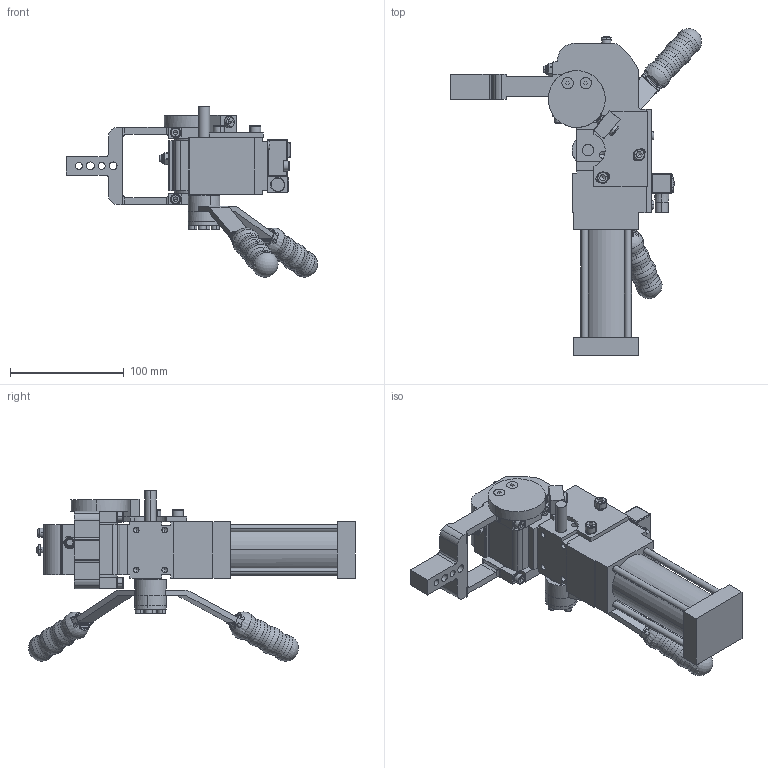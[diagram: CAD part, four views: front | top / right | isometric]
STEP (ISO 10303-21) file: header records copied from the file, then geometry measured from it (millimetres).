
FILE_DESCRIPTION((''),'2;1');
FILE_NAME('S:\Matthew\Step Files (Power Clamps) v.3.14\XSM Power Clamps\XSM140 HO-LL.stp','2006-07-27T15:14:53',('Matthew'),(''),'Autodesk Inventor 8','Autodesk Inventor 8','');
FILE_SCHEMA(('AUTOMOTIVE_DESIGN { 1 0 10303 214 1 1 1 1 }'));
Length unit declared in the file: millimetre
Products named in the file (6): XSM140 HO-LL; XSM140 HO-LL1; XSM140 HO-LL2; XSM140 HO-LL3; XSM140 HO-LL4; XSM140 HO-LL5
Assembly tree (5 placements, depth 2):
  XSM140 HO-LL
    XSM140 HO-LL1
    XSM140 HO-LL2
    XSM140 HO-LL3
    XSM140 HO-LL4
    XSM140 HO-LL5
Bounding box: 220.77 x 287.32 x 149.81 mm (x, y, z)
Volume: 926065.7 mm3; surface area: 150893.2 mm2
Topology: 5 solids, 18 shells, 1195 faces, 3236 edges, 2033 vertices
Faces by surface type: plane 555, cylinder 321, bspline 188, cone 85, sphere 34, torus 12
Entity records: 43203 total; most frequent: CARTESIAN_POINT 13625, DIRECTION 6252, ORIENTED_EDGE 6220, EDGE_CURVE 3110, AXIS2_PLACEMENT_3D 2366, VERTEX_POINT 2017, VECTOR 1520, LINE 1520
